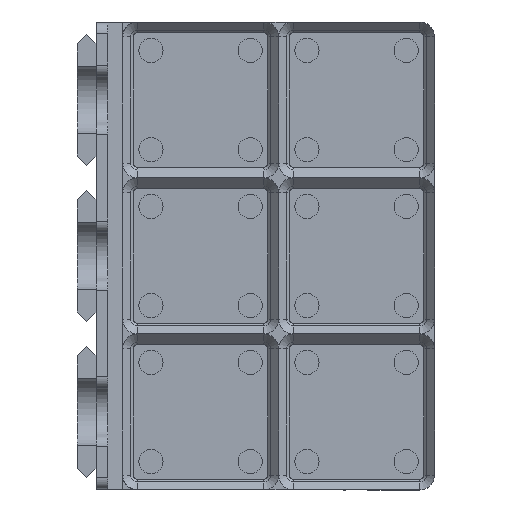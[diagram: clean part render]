
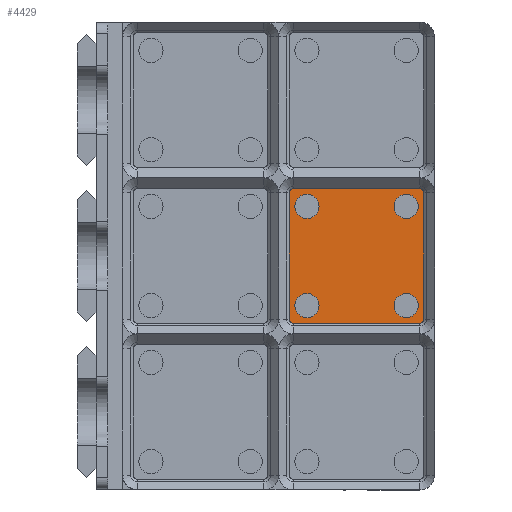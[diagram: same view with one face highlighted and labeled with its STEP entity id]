
A CAD part, top view. The second image highlights one B-rep face of the part: STEP entity #4429.
In plain terms, the highlighted planar face has unit normal (0, 0, 1).
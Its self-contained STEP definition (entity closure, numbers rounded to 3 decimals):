
#67=FACE_BOUND('',#545,.T.);
#68=FACE_BOUND('',#546,.T.);
#69=FACE_BOUND('',#547,.T.);
#70=FACE_BOUND('',#548,.T.);
#239=FACE_OUTER_BOUND('',#544,.T.);
#544=EDGE_LOOP('',(#3105,#3106,#3107,#3108,#3109,#3110,#3111,#3112));
#545=EDGE_LOOP('',(#3113));
#546=EDGE_LOOP('',(#3114));
#547=EDGE_LOOP('',(#3115));
#548=EDGE_LOOP('',(#3116));
#812=CIRCLE('',#4694,3.25);
#814=CIRCLE('',#4698,3.25);
#824=CIRCLE('',#4718,3.25);
#826=CIRCLE('',#4722,3.25);
#869=CIRCLE('',#4809,1.154);
#870=CIRCLE('',#4810,1.154);
#871=CIRCLE('',#4811,1.154);
#872=CIRCLE('',#4812,1.154);
#1071=LINE('',#6925,#1517);
#1072=LINE('',#6929,#1518);
#1073=LINE('',#6933,#1519);
#1074=LINE('',#6936,#1520);
#1517=VECTOR('',#5508,10.);
#1518=VECTOR('',#5511,10.);
#1519=VECTOR('',#5514,10.);
#1520=VECTOR('',#5517,10.);
#1910=VERTEX_POINT('',#6665);
#1912=VERTEX_POINT('',#6672);
#1922=VERTEX_POINT('',#6707);
#1924=VERTEX_POINT('',#6714);
#1993=VERTEX_POINT('',#6921);
#1994=VERTEX_POINT('',#6922);
#1995=VERTEX_POINT('',#6924);
#1996=VERTEX_POINT('',#6926);
#1997=VERTEX_POINT('',#6928);
#1998=VERTEX_POINT('',#6930);
#1999=VERTEX_POINT('',#6932);
#2000=VERTEX_POINT('',#6934);
#2285=EDGE_CURVE('',#1910,#1910,#812,.T.);
#2288=EDGE_CURVE('',#1912,#1912,#814,.T.);
#2303=EDGE_CURVE('',#1922,#1922,#824,.T.);
#2306=EDGE_CURVE('',#1924,#1924,#826,.T.);
#2399=EDGE_CURVE('',#1993,#1994,#869,.F.);
#2400=EDGE_CURVE('',#1994,#1995,#1071,.F.);
#2401=EDGE_CURVE('',#1995,#1996,#870,.F.);
#2402=EDGE_CURVE('',#1996,#1997,#1072,.F.);
#2403=EDGE_CURVE('',#1997,#1998,#871,.F.);
#2404=EDGE_CURVE('',#1998,#1999,#1073,.F.);
#2405=EDGE_CURVE('',#1999,#2000,#872,.F.);
#2406=EDGE_CURVE('',#2000,#1993,#1074,.F.);
#3105=ORIENTED_EDGE('',*,*,#2399,.T.);
#3106=ORIENTED_EDGE('',*,*,#2400,.T.);
#3107=ORIENTED_EDGE('',*,*,#2401,.T.);
#3108=ORIENTED_EDGE('',*,*,#2402,.T.);
#3109=ORIENTED_EDGE('',*,*,#2403,.T.);
#3110=ORIENTED_EDGE('',*,*,#2404,.T.);
#3111=ORIENTED_EDGE('',*,*,#2405,.T.);
#3112=ORIENTED_EDGE('',*,*,#2406,.T.);
#3113=ORIENTED_EDGE('',*,*,#2285,.T.);
#3114=ORIENTED_EDGE('',*,*,#2288,.T.);
#3115=ORIENTED_EDGE('',*,*,#2303,.T.);
#3116=ORIENTED_EDGE('',*,*,#2306,.T.);
#4238=PLANE('',#4808);
#4429=ADVANCED_FACE('',(#239,#67,#68,#69,#70),#4238,.F.);
#4694=AXIS2_PLACEMENT_3D('',#6667,#5219,#5220);
#4698=AXIS2_PLACEMENT_3D('',#6674,#5228,#5229);
#4718=AXIS2_PLACEMENT_3D('',#6709,#5273,#5274);
#4722=AXIS2_PLACEMENT_3D('',#6716,#5282,#5283);
#4808=AXIS2_PLACEMENT_3D('',#6920,#5504,#5505);
#4809=AXIS2_PLACEMENT_3D('',#6923,#5506,#5507);
#4810=AXIS2_PLACEMENT_3D('',#6927,#5509,#5510);
#4811=AXIS2_PLACEMENT_3D('',#6931,#5512,#5513);
#4812=AXIS2_PLACEMENT_3D('',#6935,#5515,#5516);
#5219=DIRECTION('center_axis',(0.,0.,-1.));
#5220=DIRECTION('ref_axis',(-1.,0.,0.));
#5228=DIRECTION('center_axis',(0.,0.,-1.));
#5229=DIRECTION('ref_axis',(-1.,0.,0.));
#5273=DIRECTION('center_axis',(0.,0.,-1.));
#5274=DIRECTION('ref_axis',(-1.,0.,0.));
#5282=DIRECTION('center_axis',(0.,0.,-1.));
#5283=DIRECTION('ref_axis',(-1.,0.,0.));
#5504=DIRECTION('center_axis',(0.,0.,-1.));
#5505=DIRECTION('ref_axis',(1.,0.,0.));
#5506=DIRECTION('center_axis',(0.,0.,
-1.));
#5507=DIRECTION('ref_axis',(0.,-1.,0.));
#5508=DIRECTION('',(-1.,0.,0.));
#5509=DIRECTION('center_axis',(0.,0.,
-1.));
#5510=DIRECTION('ref_axis',(1.,0.,0.));
#5511=DIRECTION('',(0.,-1.,0.));
#5512=DIRECTION('center_axis',(0.,0.,
-1.));
#5513=DIRECTION('ref_axis',(0.,1.,0.));
#5514=DIRECTION('',(1.,0.,0.));
#5515=DIRECTION('center_axis',(0.,0.,
-1.));
#5516=DIRECTION('ref_axis',(-1.,0.,0.));
#5517=DIRECTION('',(0.,1.,0.));
#6665=CARTESIAN_POINT('',(182.754,28.646,-141.724));
#6667=CARTESIAN_POINT('Origin',(179.504,28.646,-141.724));
#6672=CARTESIAN_POINT('',(182.754,55.354,-141.724));
#6674=CARTESIAN_POINT('Origin',(179.504,55.354,-141.724));
#6707=CARTESIAN_POINT('',(156.046,55.354,-141.724));
#6709=CARTESIAN_POINT('Origin',(152.796,55.354,-141.724));
#6714=CARTESIAN_POINT('',(156.046,28.646,-141.724));
#6716=CARTESIAN_POINT('Origin',(152.796,28.646,-141.724));
#6920=CARTESIAN_POINT('Origin',(162.65,42.,-141.724));
#6921=CARTESIAN_POINT('',(147.996,25.,-141.724));
#6922=CARTESIAN_POINT('',(149.15,23.846,-141.724));
#6923=CARTESIAN_POINT('Origin',(149.15,25.,-141.724));
#6924=CARTESIAN_POINT('',(183.15,23.846,-141.724));
#6925=CARTESIAN_POINT('',(174.65,23.846,-141.724));
#6926=CARTESIAN_POINT('',(184.304,25.,-141.724));
#6927=CARTESIAN_POINT('Origin',(183.15,25.,-141.724));
#6928=CARTESIAN_POINT('',(184.304,59.,-141.724));
#6929=CARTESIAN_POINT('',(184.304,50.5,-141.724));
#6930=CARTESIAN_POINT('',(183.15,60.154,-141.724));
#6931=CARTESIAN_POINT('Origin',(183.15,59.,-141.724));
#6932=CARTESIAN_POINT('',(149.15,60.154,-141.724));
#6933=CARTESIAN_POINT('',(157.65,60.154,-141.724));
#6934=CARTESIAN_POINT('',(147.996,59.,-141.724));
#6935=CARTESIAN_POINT('Origin',(149.15,59.,-141.724));
#6936=CARTESIAN_POINT('',(147.996,42.,-141.724));
